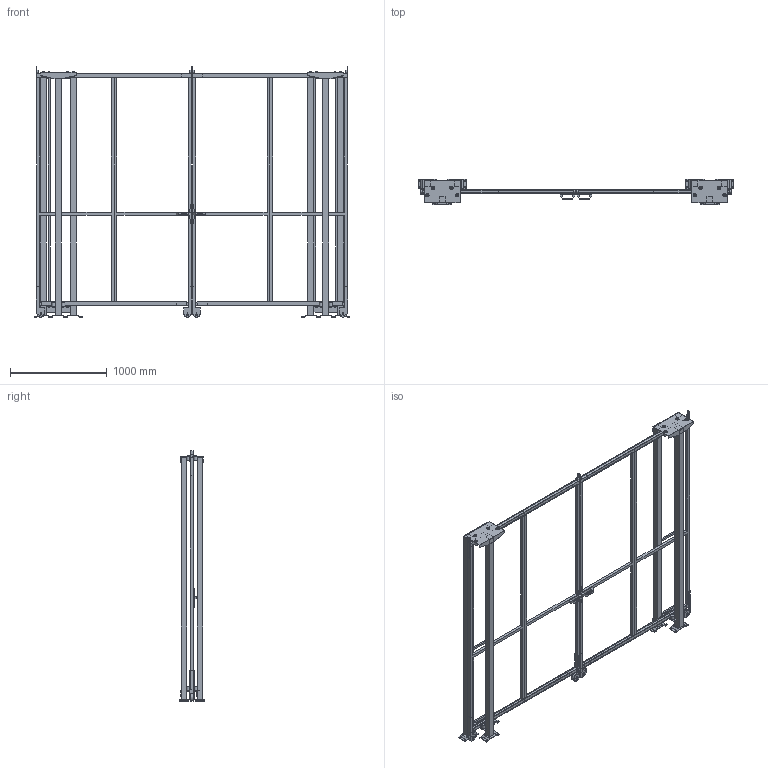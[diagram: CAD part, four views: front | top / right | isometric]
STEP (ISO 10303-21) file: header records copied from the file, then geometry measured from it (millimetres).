
FILE_DESCRIPTION(/* description */ (''),/* implementation_level */ '2;1');
FILE_NAME(/* name */ 'C:\SafeGuarding\ELABORATI\KLADKA2KR_2025-03-25-12-33-24.stp',/* time_stamp */ '2025-03-25T12:33:28+01:00',/* author */ ('admin'),/* organization */ (''),/* preprocessor_version */ 'ST-DEVELOPER v18.1',/* originating_system */ 'AutoCAD Mechanical',/* authorisation */ '');
FILE_SCHEMA (('AUTOMOTIVE_DESIGN { 1 0 10303 214 3 1 1 }'));
Length unit declared in the file: millimetre
Products named in the file (4): Product; VFPA.REPE30.08002400; VFPA.REPE2002502400; P_VFMA.V260SDU.2520
Assembly tree (12 placements, depth 2):
  Product
    VFPA.REPE30.08002400  x4
    P_VFMA.V260SDU.2520  x6
    VFPA.REPE2002502400  x2
Bounding box: 3271.38 x 264 x 2590.02 mm (x, y, z)
Volume: 90388353.5 mm3; surface area: 12319247.5 mm2
Topology: 84 solids, 106 shells, 850 faces, 2777 edges, 2725 vertices
Faces by surface type: plane 774, cylinder 76
Full cylindrical faces by diameter (mm): 9 x8, 11 x24, 13 x8, 14 x4, 30 x12, 36 x16, 80 x4
Entity records: 21774 total; most frequent: CARTESIAN_POINT 4528, DIRECTION 3324, ORIENTED_EDGE 3156, EDGE_CURVE 1676, LINE 1518, VECTOR 1518, VERTEX_POINT 1196, AXIS2_PLACEMENT_3D 903
